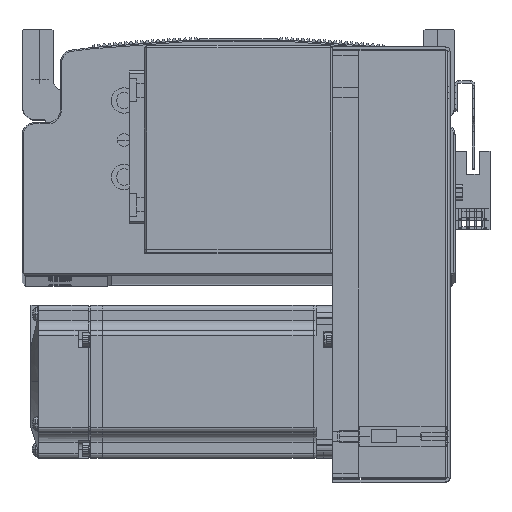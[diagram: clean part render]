
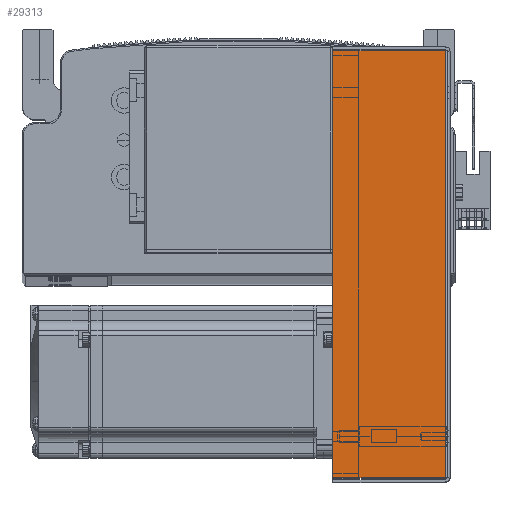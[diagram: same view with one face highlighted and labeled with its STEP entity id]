
A CAD part, top view. The second image highlights one B-rep face of the part: STEP entity #29313.
In plain terms, the highlighted planar face has unit normal (0, 0, 1) as drawn and (0, 0, -1) by its records, which use the part's own axes.
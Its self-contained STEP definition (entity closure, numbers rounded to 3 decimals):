
#19020 = LINE ( 'NONE', #37744, #19021 ) ;
#19021 = VECTOR ( 'NONE', #37738, 1000. ) ;
#19140 = VECTOR ( 'NONE', #37823, 1000. ) ;
#19234 = LINE ( 'NONE', #37804, #19140 ) ;
#19264 = VECTOR ( 'NONE', #37899, 1000. ) ;
#19268 = VECTOR ( 'NONE', #37881, 1000. ) ;
#19276 = LINE ( 'NONE', #37907, #19268 ) ;
#19324 = LINE ( 'NONE', #37911, #19264 ) ;
#21078 = FACE_OUTER_BOUND ( 'NONE', #33056, .T. ) ;
#29313 = ADVANCED_FACE ( 'NONE', ( #21078 ), #67613, .F. ) ;
#33056 = EDGE_LOOP ( 'NONE', ( #56193, #58042, #56087, #56190 ) ) ;
#36102 = AXIS2_PLACEMENT_3D ( 'NONE', #67974, #68083, #68236 ) ;
#37738 = DIRECTION ( 'NONE',  ( 1., 0., 0. ) ) ;
#37744 = CARTESIAN_POINT ( 'NONE',  ( 84.5, 45., -40.5 ) ) ;
#37804 = CARTESIAN_POINT ( 'NONE',  ( 83.793, 0., -40.5 ) ) ;
#37823 = DIRECTION ( 'NONE',  ( 0., 1., 0. ) ) ;
#37881 = DIRECTION ( 'NONE',  ( 0., 1., 0. ) ) ;
#37899 = DIRECTION ( 'NONE',  ( 1., 0., 0. ) ) ;
#37907 = CARTESIAN_POINT ( 'NONE',  ( -83.793, 0., -40.5 ) ) ;
#37911 = CARTESIAN_POINT ( 'NONE',  ( 0., 0.737, -40.5 ) ) ;
#53098 = CARTESIAN_POINT ( 'NONE',  ( -83.793, 0.737, -40.5 ) ) ;
#53115 = CARTESIAN_POINT ( 'NONE',  ( -83.793, 45., -40.5 ) ) ;
#53147 = CARTESIAN_POINT ( 'NONE',  ( 83.793, 0.737, -40.5 ) ) ;
#53150 = CARTESIAN_POINT ( 'NONE',  ( 83.793, 45., -40.5 ) ) ;
#56087 = ORIENTED_EDGE ( 'NONE', *, *, #59166, .T. ) ;
#56190 = ORIENTED_EDGE ( 'NONE', *, *, #59214, .F. ) ;
#56193 = ORIENTED_EDGE ( 'NONE', *, *, #59275, .F. ) ;
#58042 = ORIENTED_EDGE ( 'NONE', *, *, #59277, .T. ) ;
#59166 = EDGE_CURVE ( 'NONE', #86175, #86194, #19020, .T. ) ;
#59214 = EDGE_CURVE ( 'NONE', #86221, #86194, #19234, .T. ) ;
#59275 = EDGE_CURVE ( 'NONE', #86186, #86221, #19324, .T. ) ;
#59277 = EDGE_CURVE ( 'NONE', #86186, #86175, #19276, .T. ) ;
#67613 = PLANE ( 'NONE',  #36102 ) ;
#67974 = CARTESIAN_POINT ( 'NONE',  ( 0., 0., -40.5 ) ) ;
#68083 = DIRECTION ( 'NONE',  ( 0., 0., 1. ) ) ;
#68236 = DIRECTION ( 'NONE',  ( 0., -1., 0. ) ) ;
#86175 = VERTEX_POINT ( 'NONE', #53115 ) ;
#86186 = VERTEX_POINT ( 'NONE', #53098 ) ;
#86194 = VERTEX_POINT ( 'NONE', #53150 ) ;
#86221 = VERTEX_POINT ( 'NONE', #53147 ) ;
